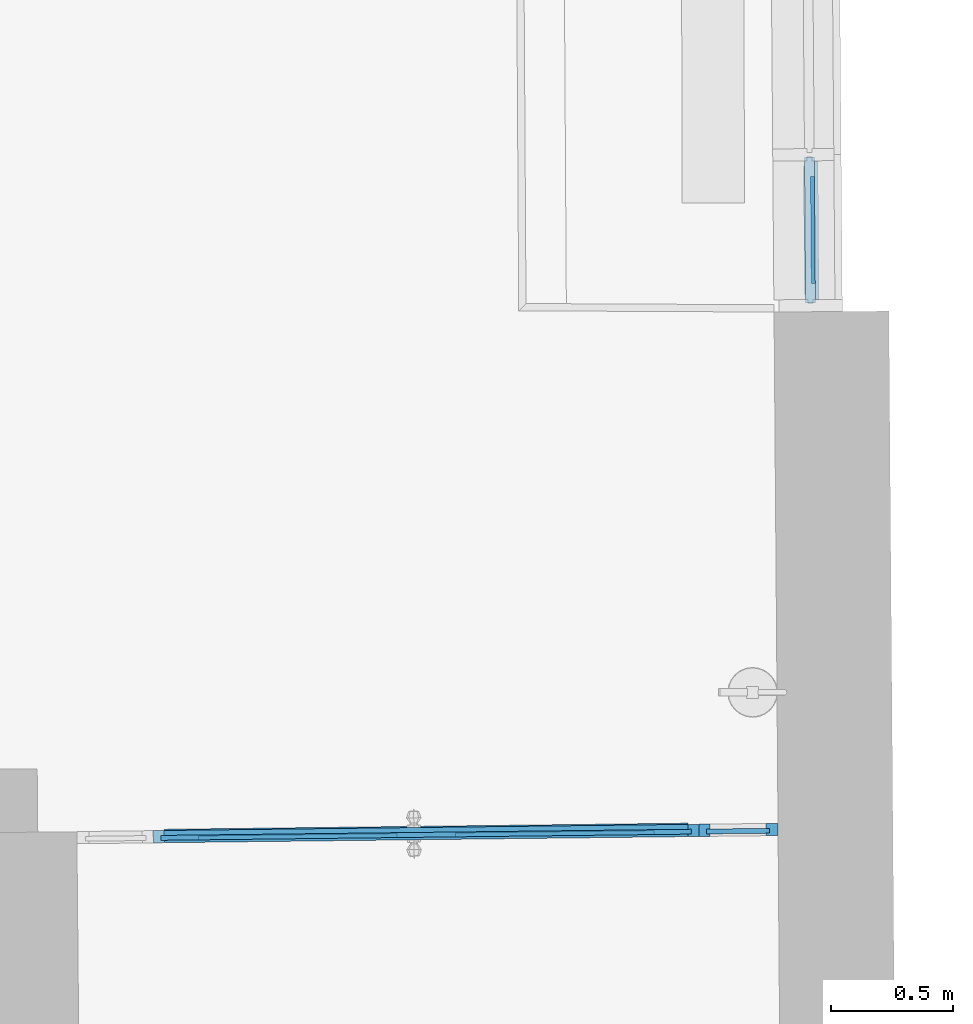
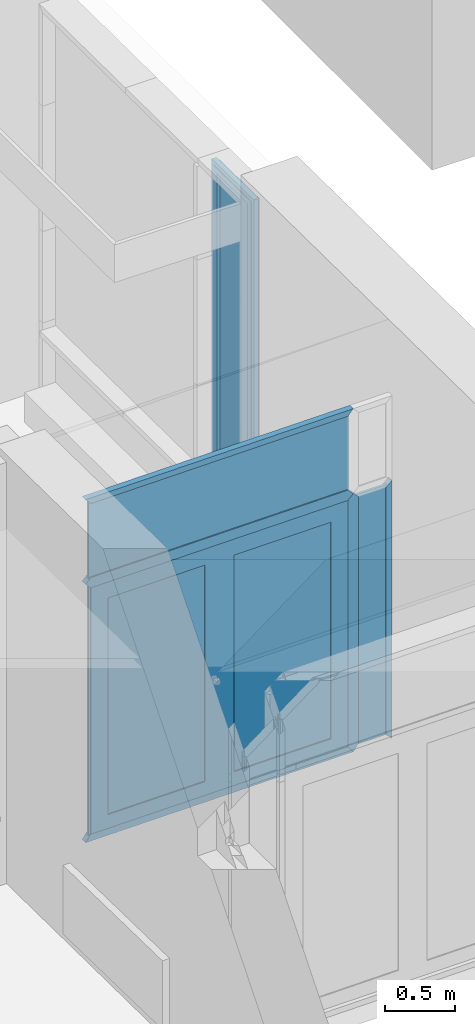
# One storey, part 127 of 196: 11 building element parts, 2 elements without a shape of their own.
"""IFC2X3 building model written with IfcOpenShell, lengths in metres."""

from ifc_helpers import new_model, entity, si_unit, converted_unit, derived_unit, money_unit, direction, frame, origin_with_axes, place, context, subcontext, project, spatial, faceted_brep, material, type_object, element, aggregate, save


model = new_model("IFC2X3")

# Units and contexts
model_context = context("Model", 3, precision=1e-05, world=origin_with_axes(), true_north=direction((0.0, 1.0)))
body_context = subcontext(model_context, "Body", "Model", "MODEL_VIEW")
ifc_project = project(units=[si_unit("LENGTHUNIT", "METRE"), si_unit("AREAUNIT", "SQUARE_METRE"), si_unit("VOLUMEUNIT", "CUBIC_METRE"), converted_unit("PLANEANGLEUNIT", "DEGREE", entity("IfcPlaneAngleMeasure", 0.0174532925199), si_unit("PLANEANGLEUNIT", "RADIAN"), dimensions=[0, 0, 0, 0, 0, 0, 0]), money_unit("EUR"), converted_unit("TIMEUNIT", "Year", entity("IfcTimeMeasure", 31556926.0), si_unit("TIMEUNIT", "SECOND"), dimensions=[0, 0, 1, 0, 0, 0, 0]), si_unit("MASSUNIT", "GRAM", prefix="KILO"), si_unit("THERMODYNAMICTEMPERATUREUNIT", "DEGREE_CELSIUS"), si_unit("LUMINOUSINTENSITYUNIT", "LUMEN"), si_unit("ENERGYUNIT", "JOULE", prefix="MEGA"), derived_unit("THERMALCONDUCTANCEUNIT", [(si_unit("POWERUNIT", "WATT"), 1), (si_unit("LENGTHUNIT", "METRE"), -1), (si_unit("THERMODYNAMICTEMPERATUREUNIT", "KELVIN"), -1)]), derived_unit("SPECIFICHEATCAPACITYUNIT", [(si_unit("ENERGYUNIT", "JOULE"), 1), (si_unit("MASSUNIT", "GRAM", prefix="KILO"), -1), (si_unit("THERMODYNAMICTEMPERATUREUNIT", "KELVIN"), -1)]), derived_unit("MASSDENSITYUNIT", [(si_unit("MASSUNIT", "GRAM", prefix="KILO"), 1), (si_unit("VOLUMEUNIT", "CUBIC_METRE"), -1)])], contexts=[model_context])

# Site, building, storey
site_placement = place(None, origin_with_axes())
site = spatial("IfcSite", under=ifc_project, at=site_placement, Name="Gelände", CompositionType="ELEMENT")
building_placement = place(site_placement, origin_with_axes())
building = spatial("IfcBuilding", under=site, at=building_placement, Name="Gebäude", CompositionType="ELEMENT")
storey_placement = place(building_placement, frame((0.0, 0.0, -3.0), z_axis=(0.0, 0.0, 1.0), x_axis=(1.0, 0.0, 0.0)))
storey = spatial("IfcBuildingStorey", under=building, at=storey_placement, Name="KELLERGESCHOSS", CompositionType="ELEMENT", Elevation=-3.0)

# Proxy, building element parts
building_element_proxy_type = type_object("IfcBuildingElementProxyType", Name="Fassadentyp", PredefinedType="NOTDEFINED")
proxy_1_placement = place(storey_placement, frame((-17.1540826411, 42.3223141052, 0.417602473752), z_axis=(0.0, 0.0, 1.0), x_axis=(1.0, 0.0, 0.0)))
proxy_1 = element("IfcBuildingElementProxy", 1, at=proxy_1_placement, inside=storey, type_object=building_element_proxy_type, Name="Fassade-002")
ifc_material_1 = material(Name="53_Metall, Aluminium")
building_element_part_1_placement = place(proxy_1_placement, origin_with_axes())
building_element_part_1 = element("IfcBuildingElementPart", 2, at=building_element_part_1_placement, material=ifc_material_1, Name="53_Metall, Aluminium", context=body_context, shape_type="Brep", body=[
    faceted_brep([(1.07131075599, 0.0475386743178, 0.0600000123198), (1.07131075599, 0.0475386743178, 2.2176744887), (1.07136926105, 0.0425390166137, 2.2176744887), (1.07136926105, 0.0425390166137, 0.0600000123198), (1.02631383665, 0.0470121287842, 0.0600000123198), (1.02631383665, 0.0470121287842, 2.1726744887), (1.02637234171, 0.0420124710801, 2.1726744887), (1.02637234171, 0.0420124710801, 0.0600000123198)], [[[0, 1, 2, 3]], [[0, 4, 5, 1]], [[1, 5, 6, 2]], [[3, 2, 6, 7]], [[4, 0, 3, 7]], [[5, 4, 7, 6]]]),
    faceted_brep([(-1.07212980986, 0.0224565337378, 2.2176744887), (-1.02713289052, 0.0229830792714, 2.1726744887), (-1.02707438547, 0.0179834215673, 2.1726744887), (-1.0720713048, 0.0174568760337, 2.2176744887), (1.07131075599, 0.0475386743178, 2.2176744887), (1.02631383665, 0.0470121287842, 2.1726744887), (1.02637234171, 0.0420124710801, 2.1726744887), (1.07136926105, 0.0425390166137, 2.2176744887)], [[[0, 1, 2, 3]], [[0, 4, 5, 1]], [[1, 5, 6, 2]], [[3, 2, 6, 7]], [[4, 0, 3, 7]], [[5, 4, 7, 6]]]),
    faceted_brep([(-1.07212980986, 0.0224565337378, 0.0600000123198), (-1.02713289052, 0.0229830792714, 0.0600000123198), (-1.02707438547, 0.0179834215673, 0.0600000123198), (-1.0720713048, 0.0174568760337, 0.0600000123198), (-1.07212980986, 0.0224565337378, 2.2176744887), (-1.02713289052, 0.0229830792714, 2.1726744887), (-1.02707438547, 0.0179834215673, 2.1726744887), (-1.0720713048, 0.0174568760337, 2.2176744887)], [[[0, 1, 2, 3]], [[0, 4, 5, 1]], [[1, 5, 6, 2]], [[3, 2, 6, 7]], [[4, 0, 3, 7]], [[5, 4, 7, 6]]]),
    faceted_brep([(1.07136926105, 0.0425390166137, 0.0600000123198), (1.07136926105, 0.0425390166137, 2.2176744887), (1.07195431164, -0.00745756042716, 2.2176744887), (1.07195431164, -0.00745756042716, 0.0600000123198), (1.05137063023, 0.0423049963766, 0.0600000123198), (1.05137063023, 0.0423049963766, 2.1976744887), (1.05195568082, -0.00769158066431, 2.1976744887), (1.05195568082, -0.00769158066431, 0.0600000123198)], [[[0, 1, 2, 3]], [[0, 4, 5, 1]], [[1, 5, 6, 2]], [[3, 2, 6, 7]], [[4, 0, 3, 7]], [[5, 4, 7, 6]]]),
    faceted_brep([(-1.0720713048, 0.0174568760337, 2.2176744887), (-1.05207267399, 0.0176908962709, 2.1976744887), (-1.05148762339, -0.03230568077, 2.1976744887), (-1.07148625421, -0.0325397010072, 2.2176744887), (1.07136926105, 0.0425390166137, 2.2176744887), (1.05137063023, 0.0423049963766, 2.1976744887), (1.05195568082, -0.00769158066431, 2.1976744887), (1.07195431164, -0.00745756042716, 2.2176744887)], [[[0, 1, 2, 3]], [[0, 4, 5, 1]], [[1, 5, 6, 2]], [[3, 2, 6, 7]], [[4, 0, 3, 7]], [[5, 4, 7, 6]]]),
    faceted_brep([(-1.0720713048, 0.0174568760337, 0.0600000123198), (-1.05207267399, 0.0176908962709, 0.0600000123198), (-1.05148762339, -0.03230568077, 0.0600000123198), (-1.07148625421, -0.0325397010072, 0.0600000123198), (-1.0720713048, 0.0174568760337, 2.2176744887), (-1.05207267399, 0.0176908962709, 2.1976744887), (-1.05148762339, -0.03230568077, 2.1976744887), (-1.07148625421, -0.0325397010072, 2.2176744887)], [[[0, 1, 2, 3]], [[0, 4, 5, 1]], [[1, 5, 6, 2]], [[3, 2, 6, 7]], [[4, 0, 3, 7]], [[5, 4, 7, 6]]]),
    faceted_brep([(-1.08683626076, -0.00271726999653, 0.0450000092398), (1.08660225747, 0.0227159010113, 0.0450000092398), (1.08683627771, 0.00271727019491, 0.0450000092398), (-1.08660224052, -0.0227159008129, 0.0450000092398), (-1.07183728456, -0.00254175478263, 0.0600000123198), (1.07160328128, 0.0225403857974, 0.0600000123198), (1.07183730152, 0.00254175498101, 0.0600000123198), (-1.07160326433, -0.022540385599, 0.0600000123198)], [[[0, 1, 2, 3]], [[0, 4, 5, 1]], [[1, 5, 6, 2]], [[3, 2, 6, 7]], [[4, 0, 3, 7]], [[5, 4, 7, 6]]]),
    faceted_brep([(1.08660225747, 0.0227159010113, 0.0450000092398), (1.08660225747, 0.0227159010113, 2.23267449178), (1.08683627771, 0.00271727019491, 2.23267449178), (1.08683627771, 0.00271727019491, 0.0450000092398), (1.07160328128, 0.0225403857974, 0.0600000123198), (1.07160328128, 0.0225403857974, 2.2176744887), (1.07183730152, 0.00254175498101, 2.2176744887), (1.07183730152, 0.00254175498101, 0.0600000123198)], [[[0, 1, 2, 3]], [[0, 4, 5, 1]], [[1, 5, 6, 2]], [[3, 2, 6, 7]], [[4, 0, 3, 7]], [[5, 4, 7, 6]]]),
    faceted_brep([(1.08660225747, 0.0227159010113, 2.23267449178), (-1.08683626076, -0.00271726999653, 2.23267449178), (-1.08660224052, -0.0227159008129, 2.23267449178), (1.08683627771, 0.00271727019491, 2.23267449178), (1.07160328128, 0.0225403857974, 2.2176744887), (-1.07183728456, -0.00254175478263, 2.2176744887), (-1.07160326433, -0.022540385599, 2.2176744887), (1.07183730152, 0.00254175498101, 2.2176744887)], [[[0, 1, 2, 3]], [[0, 4, 5, 1]], [[1, 5, 6, 2]], [[3, 2, 6, 7]], [[4, 0, 3, 7]], [[5, 4, 7, 6]]]),
    faceted_brep([(-1.08683626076, -0.00271726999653, 2.23267449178), (-1.08683626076, -0.00271726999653, 0.0450000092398), (-1.08660224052, -0.0227159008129, 0.0450000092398), (-1.08660224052, -0.0227159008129, 2.23267449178), (-1.07183728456, -0.00254175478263, 2.2176744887), (-1.07183728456, -0.00254175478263, 0.0600000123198), (-1.07160326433, -0.022540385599, 0.0600000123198), (-1.07160326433, -0.022540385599, 2.2176744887)], [[[0, 1, 2, 3]], [[0, 4, 5, 1]], [[1, 5, 6, 2]], [[3, 2, 6, 7]], [[4, 0, 3, 7]], [[5, 4, 7, 6]]]),
    faceted_brep([(-0.932080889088, 0.0190950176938, 0.18000001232), (-0.932080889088, 0.0190950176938, 2.0776744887), (-0.931495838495, -0.0309015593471, 2.0776744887), (-0.931495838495, -0.0309015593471, 0.18000001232), (-1.05207267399, 0.0176908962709, 0.0600000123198), (-1.05207267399, 0.0176908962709, 2.1976744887), (-1.05148762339, -0.03230568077, 2.1976744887), (-1.05148762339, -0.03230568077, 0.0600000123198)], [[[0, 1, 2, 3]], [[0, 4, 5, 1]], [[1, 5, 6, 2]], [[3, 2, 6, 7]], [[4, 0, 3, 7]], [[5, 4, 7, 6]]]),
    faceted_brep([(-0.000351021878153, 0.0299979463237, 0.0600000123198), (-0.000351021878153, 0.0299979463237, 2.1976744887), (0.000234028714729, -0.0199986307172, 2.1976744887), (0.000234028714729, -0.0199986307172, 0.0600000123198), (-0.120342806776, 0.0285938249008, 0.18000001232), (-0.120342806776, 0.0285938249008, 2.0776744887), (-0.119757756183, -0.0214027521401, 2.0776744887), (-0.119757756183, -0.0214027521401, 0.18000001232)], [[[0, 1, 2, 3]], [[0, 4, 5, 1]], [[1, 5, 6, 2]], [[3, 2, 6, 7]], [[4, 0, 3, 7]], [[5, 4, 7, 6]]]),
    faceted_brep([(-0.000351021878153, 0.0299979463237, 0.0600000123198), (-0.120342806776, 0.0285938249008, 0.18000001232), (-0.119757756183, -0.0214027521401, 0.18000001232), (0.000234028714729, -0.0199986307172, 0.0600000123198), (-1.05207267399, 0.0176908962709, 0.0600000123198), (-0.932080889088, 0.0190950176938, 0.18000001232), (-0.931495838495, -0.0309015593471, 0.18000001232), (-1.05148762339, -0.03230568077, 0.0600000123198)], [[[0, 1, 2, 3]], [[0, 4, 5, 1]], [[1, 5, 6, 2]], [[3, 2, 6, 7]], [[4, 0, 3, 7]], [[5, 4, 7, 6]]]),
    faceted_brep([(-1.05207267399, 0.0176908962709, 2.1976744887), (-0.932080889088, 0.0190950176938, 2.0776744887), (-0.931495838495, -0.0309015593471, 2.0776744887), (-1.05148762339, -0.03230568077, 2.1976744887), (-0.000351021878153, 0.0299979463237, 2.1976744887), (-0.120342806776, 0.0285938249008, 2.0776744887), (-0.119757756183, -0.0214027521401, 2.0776744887), (0.000234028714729, -0.0199986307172, 2.1976744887)], [[[0, 1, 2, 3]], [[0, 4, 5, 1]], [[1, 5, 6, 2]], [[3, 2, 6, 7]], [[4, 0, 3, 7]], [[5, 4, 7, 6]]]),
    faceted_brep([(0.11964076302, 0.0314020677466, 0.18000001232), (0.11964076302, 0.0314020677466, 2.0776744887), (0.120225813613, -0.0185945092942, 2.0776744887), (0.120225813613, -0.0185945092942, 0.18000001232), (-0.000351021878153, 0.0299979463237, 0.0600000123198), (-0.000351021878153, 0.0299979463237, 2.1976744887), (0.000234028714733, -0.0199986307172, 2.1976744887), (0.000234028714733, -0.0199986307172, 0.0600000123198)], [[[0, 1, 2, 3]], [[0, 4, 5, 1]], [[1, 5, 6, 2]], [[3, 2, 6, 7]], [[4, 0, 3, 7]], [[5, 4, 7, 6]]]),
    faceted_brep([(1.05137063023, 0.0423049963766, 0.0600000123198), (1.05137063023, 0.0423049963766, 2.1976744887), (1.05195568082, -0.00769158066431, 2.1976744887), (1.05195568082, -0.00769158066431, 0.0600000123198), (0.931378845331, 0.0409008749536, 0.18000001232), (0.931378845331, 0.0409008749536, 2.0776744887), (0.931963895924, -0.00909570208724, 2.0776744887), (0.931963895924, -0.00909570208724, 0.18000001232)], [[[0, 1, 2, 3]], [[0, 4, 5, 1]], [[1, 5, 6, 2]], [[3, 2, 6, 7]], [[4, 0, 3, 7]], [[5, 4, 7, 6]]]),
    faceted_brep([(1.05137063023, 0.0423049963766, 0.0600000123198), (0.931378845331, 0.0409008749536, 0.18000001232), (0.931963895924, -0.00909570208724, 0.18000001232), (1.05195568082, -0.00769158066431, 0.0600000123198), (-0.000351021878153, 0.0299979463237, 0.0600000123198), (0.11964076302, 0.0314020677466, 0.18000001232), (0.120225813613, -0.0185945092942, 0.18000001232), (0.000234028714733, -0.0199986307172, 0.0600000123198)], [[[0, 1, 2, 3]], [[0, 4, 5, 1]], [[1, 5, 6, 2]], [[3, 2, 6, 7]], [[4, 0, 3, 7]], [[5, 4, 7, 6]]]),
    faceted_brep([(-0.000351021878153, 0.0299979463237, 2.1976744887), (0.11964076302, 0.0314020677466, 2.0776744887), (0.120225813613, -0.0185945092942, 2.0776744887), (0.000234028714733, -0.0199986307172, 2.1976744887), (1.05137063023, 0.0423049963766, 2.1976744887), (0.931378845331, 0.0409008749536, 2.0776744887), (0.931963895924, -0.00909570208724, 2.0776744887), (1.05195568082, -0.00769158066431, 2.1976744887)], [[[0, 1, 2, 3]], [[0, 4, 5, 1]], [[1, 5, 6, 2]], [[3, 2, 6, 7]], [[4, 0, 3, 7]], [[5, 4, 7, 6]]]),
])
ifc_material_2 = material(Name="45_Glas, Normalglas")
building_element_part_2_placement = place(proxy_1_placement, origin_with_axes())
building_element_part_2 = element("IfcBuildingElementPart", 3, at=building_element_part_2_placement, material=ifc_material_2, Name="45_Glas, Normalglas", context=body_context, shape_type="Brep", body=[
    faceted_brep([(-0.931800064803, -0.00490333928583, 0.18000001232), (-0.120061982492, 0.00459546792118, 0.18000001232), (-0.119874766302, -0.0114034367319, 0.18000001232), (-0.931612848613, -0.0209022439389, 0.18000001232), (-0.931800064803, -0.00490333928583, 2.0776744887), (-0.120061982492, 0.00459546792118, 2.0776744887), (-0.119874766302, -0.0114034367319, 2.0776744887), (-0.931612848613, -0.0209022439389, 2.0776744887)], [[[0, 1, 2, 3]], [[0, 4, 5, 1]], [[1, 5, 6, 2]], [[3, 2, 6, 7]], [[4, 0, 3, 7]], [[5, 4, 7, 6]]]),
    faceted_brep([(0.119921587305, 0.00740371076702, 0.18000001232), (0.931659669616, 0.016902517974, 0.18000001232), (0.931846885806, 0.000903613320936, 0.18000001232), (0.120108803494, -0.00859519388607, 0.18000001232), (0.119921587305, 0.00740371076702, 2.0776744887), (0.931659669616, 0.016902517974, 2.0776744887), (0.931846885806, 0.000903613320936, 2.0776744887), (0.120108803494, -0.00859519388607, 2.0776744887)], [[[0, 1, 2, 3]], [[0, 4, 5, 1]], [[1, 5, 6, 2]], [[3, 2, 6, 7]], [[4, 0, 3, 7]], [[5, 4, 7, 6]]]),
])
building_element_part_3_placement = place(proxy_1_placement, origin_with_axes())
building_element_part_3 = element("IfcBuildingElementPart", 4, at=building_element_part_3_placement, material=ifc_material_2, Name="45_Glas, Normalglas", context=body_context, shape_type="Brep", body=[
    faceted_brep([(1.08660224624, 0.0227159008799, 2.96999994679), (-1.08683626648, -0.00271727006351, 2.96999994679), (-1.08660224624, -0.0227159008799, 2.96999994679), (1.08683626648, 0.00271727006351, 2.96999994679), (1.08660224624, 0.0227159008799, 2.29267449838), (-1.08683626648, -0.00271727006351, 2.29267449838), (-1.08660224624, -0.0227159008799, 2.29267449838), (1.08683626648, 0.00271727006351, 2.29267449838)], [[[0, 1, 2, 3]], [[0, 4, 5, 1]], [[1, 5, 6, 2]], [[3, 2, 6, 7]], [[4, 0, 3, 7]], [[5, 4, 7, 6]]]),
])
building_element_part_4_placement = place(proxy_1_placement, origin_with_axes())
building_element_part_4 = element("IfcBuildingElementPart", 5, at=building_element_part_4_placement, material=ifc_material_2, Name="45_Glas, Normalglas", context=body_context, shape_type="Brep", body=[
    faceted_brep([(1.40511021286, 0.0264430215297, 2.23267449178), (1.14659814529, 0.0234179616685, 2.23267449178), (1.14683216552, 0.00341933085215, 2.23267449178), (1.4053442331, 0.00644439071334, 2.23267449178), (1.40511021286, 0.0264430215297, 0.0450000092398), (1.14659814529, 0.0234179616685, 0.0450000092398), (1.14683216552, 0.00341933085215, 0.0450000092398), (1.4053442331, 0.00644439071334, 0.0450000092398)], [[[0, 1, 2, 3]], [[0, 4, 5, 1]], [[1, 5, 6, 2]], [[3, 2, 6, 7]], [[4, 0, 3, 7]], [[5, 4, 7, 6]]]),
])
building_element_part_5_placement = place(proxy_1_placement, origin_with_axes())
building_element_part_5 = element("IfcBuildingElementPart", 6, at=building_element_part_5_placement, material=ifc_material_1, Name="53_Metall, Aluminium", context=body_context, shape_type="Brep", body=[
    faceted_brep([(1.08510234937, 0.0226983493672, 2.96999995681), (1.07160327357, 0.0225403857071, 2.95499995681), (1.07136925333, 0.0425390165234, 2.95499995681), (1.11636617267, 0.043065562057, 3.00499995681), (1.11695122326, -0.00693101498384, 3.00499995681), (1.07195430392, -0.00745756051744, 2.95499995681), (1.0718372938, 0.00254175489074, 2.95499995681), (1.08533636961, 0.00269971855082, 2.96999995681), (-1.08533636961, -0.00269971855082, 2.96999995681), (-1.0718372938, -0.00254175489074, 2.95499995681), (-1.07207131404, 0.0174568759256, 2.95499995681), (-1.11706823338, 0.016930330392, 3.00499995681), (-1.11648318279, -0.0330662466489, 3.00499995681), (-1.07148626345, -0.0325397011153, 2.95499995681), (-1.07160327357, -0.0225403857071, 2.95499995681), (-1.08510234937, -0.0226983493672, 2.96999995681)], [[[0, 1, 2, 3, 4, 5, 6, 7]], [[0, 8, 9, 1]], [[9, 10, 2, 1]], [[2, 10, 11, 3]], [[3, 11, 12, 4]], [[4, 12, 13, 5]], [[6, 5, 13, 14]], [[14, 15, 7, 6]], [[7, 15, 8, 0]], [[8, 15, 14, 13, 12, 11, 10, 9]]]),
])
building_element_part_6_placement = place(proxy_1_placement, origin_with_axes())
building_element_part_6 = element("IfcBuildingElementPart", 7, at=building_element_part_6_placement, material=ifc_material_1, Name="53_Metall, Aluminium", context=body_context, shape_type="Brep", body=[
    faceted_brep([(1.0828525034, 0.0226720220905, 0.045), (1.08308652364, 0.00267339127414, 0.045), (1.0718372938, 0.00254175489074, 0.06), (1.07195430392, -0.00745756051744, 0.06), (1.11695122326, -0.00693101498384, 0.0), (1.11636617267, 0.043065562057, 0.0), (1.07136925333, 0.0425390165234, 0.06), (1.07160327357, 0.0225403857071, 0.06), (-1.08308652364, -0.00267339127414, 0.045), (-1.0828525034, -0.0226720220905, 0.045), (-1.07160327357, -0.0225403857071, 0.06), (-1.07148626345, -0.0325397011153, 0.06), (-1.11648318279, -0.0330662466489, 0.0), (-1.11706823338, 0.016930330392, 0.0), (-1.07207131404, 0.0174568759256, 0.06), (-1.0718372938, -0.00254175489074, 0.06)], [[[0, 1, 2, 3, 4, 5, 6, 7]], [[1, 0, 8, 9]], [[10, 2, 1, 9]], [[2, 10, 11, 3]], [[4, 3, 11, 12]], [[5, 4, 12, 13]], [[6, 5, 13, 14]], [[15, 7, 6, 14]], [[0, 7, 15, 8]], [[8, 15, 14, 13, 12, 11, 10, 9]]]),
])
building_element_part_7_placement = place(proxy_1_placement, origin_with_axes())
building_element_part_7 = element("IfcBuildingElementPart", 8, at=building_element_part_7_placement, material=ifc_material_1, Name="53_Metall, Aluminium", context=body_context, shape_type="Brep", body=[
    faceted_brep([(1.08660224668, 0.0227159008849, 2.23267449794), (1.07160327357, 0.0225403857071, 2.21767449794), (1.07136925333, 0.0425390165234, 2.21767449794), (1.11636617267, 0.043065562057, 2.26267449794), (1.11695122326, -0.00693101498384, 2.26267449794), (1.07195430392, -0.00745756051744, 2.21767449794), (1.0718372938, 0.00254175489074, 2.21767449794), (1.08683626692, 0.0027172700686, 2.23267449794), (-1.08683626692, -0.00271727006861, 2.23267449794), (-1.0718372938, -0.00254175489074, 2.21767449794), (-1.07207131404, 0.0174568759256, 2.21767449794), (-1.11706823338, 0.016930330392, 2.26267449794), (-1.07207131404, 0.0174568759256, 2.30767449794), (1.07136925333, 0.0425390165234, 2.30767449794), (1.07160327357, 0.0225403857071, 2.30767449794), (1.08660224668, 0.0227159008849, 2.29267449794), (1.08683626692, 0.0027172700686, 2.29267449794), (1.0718372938, 0.00254175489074, 2.30767449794), (1.07195430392, -0.00745756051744, 2.30767449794), (-1.11648318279, -0.0330662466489, 2.26267449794), (-1.07148626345, -0.0325397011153, 2.21767449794), (-1.07148626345, -0.0325397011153, 2.30767449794), (-1.07160327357, -0.0225403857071, 2.21767449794), (-1.08660224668, -0.022715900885, 2.23267449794), (-1.07160327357, -0.0225403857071, 2.30767449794), (-1.08660224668, -0.022715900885, 2.29267449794), (-1.08683626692, -0.00271727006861, 2.29267449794), (-1.0718372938, -0.00254175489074, 2.30767449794)], [[[0, 1, 2, 3, 4, 5, 6, 7]], [[1, 0, 8, 9]], [[1, 9, 10, 2]], [[11, 12, 13, 3, 2, 10]], [[3, 13, 14, 15, 16, 17, 18, 4]], [[19, 20, 5, 4, 18, 21]], [[22, 6, 5, 20]], [[7, 6, 22, 23]], [[0, 7, 23, 8]], [[23, 22, 20, 19, 11, 10, 9, 8]], [[21, 24, 25, 26, 27, 12, 11, 19]], [[14, 13, 12, 27]], [[14, 27, 26, 15]], [[15, 26, 25, 16]], [[17, 16, 25, 24]], [[24, 21, 18, 17]]]),
])
building_element_part_8_placement = place(proxy_1_placement, origin_with_axes())
building_element_part_8 = element("IfcBuildingElementPart", 9, at=building_element_part_8_placement, material=ifc_material_1, Name="53_Metall, Aluminium", context=body_context, shape_type="Brep", body=[
    faceted_brep([(1.14659813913, 0.0234179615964, 2.23267449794), (1.16159711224, 0.0235934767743, 2.21767449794), (1.161363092, 0.0435921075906, 2.21767449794), (1.11636617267, 0.043065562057, 2.26267449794), (1.11695122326, -0.00693101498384, 2.26267449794), (1.1619481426, -0.00640446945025, 2.21767449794), (1.16183113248, 0.00359484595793, 2.21767449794), (1.14683215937, 0.00341933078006, 2.23267449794), (1.14659813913, 0.0234179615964, 0.04), (1.16159711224, 0.0235934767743, 0.06), (1.161363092, 0.0435921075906, 0.06), (1.11636617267, 0.043065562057, 0.0), (1.07136925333, 0.0425390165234, 0.06), (1.07136925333, 0.0425390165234, 2.21767449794), (1.07160327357, 0.0225403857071, 2.21767449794), (1.08660224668, 0.0227159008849, 2.23267449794), (1.08683626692, 0.0027172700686, 2.23267449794), (1.0718372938, 0.00254175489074, 2.21767449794), (1.07195430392, -0.00745756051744, 2.21767449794), (1.11695122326, -0.00693101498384, 0.0), (1.1619481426, -0.00640446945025, 0.06), (1.07195430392, -0.00745756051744, 0.06), (1.16183113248, 0.00359484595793, 0.06), (1.14683215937, 0.00341933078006, 0.04), (1.0718372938, 0.00254175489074, 0.06), (1.08683626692, 0.0027172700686, 0.04), (1.08660224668, 0.0227159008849, 0.04), (1.07160327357, 0.0225403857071, 0.06)], [[[0, 1, 2, 3, 4, 5, 6, 7]], [[1, 0, 8, 9]], [[1, 9, 10, 2]], [[11, 12, 13, 3, 2, 10]], [[3, 13, 14, 15, 16, 17, 18, 4]], [[19, 20, 5, 4, 18, 21]], [[22, 6, 5, 20]], [[7, 6, 22, 23]], [[0, 7, 23, 8]], [[23, 22, 20, 19, 11, 10, 9, 8]], [[21, 24, 25, 26, 27, 12, 11, 19]], [[14, 13, 12, 27]], [[14, 27, 26, 15]], [[15, 26, 25, 16]], [[17, 16, 25, 24]], [[24, 21, 18, 17]]]),
])
building_element_part_9_placement = place(proxy_1_placement, origin_with_axes())
building_element_part_9 = element("IfcBuildingElementPart", 10, at=building_element_part_9_placement, material=ifc_material_1, Name="53_Metall, Aluminium", context=body_context, shape_type="Brep", body=[
    faceted_brep([(1.40511022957, 0.0264430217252, 2.23117449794), (1.40534424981, 0.00644439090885, 2.23117449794), (1.3903452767, 0.00626887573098, 2.21767449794), (1.39046228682, -0.00373043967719, 2.21767449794), (1.44045886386, -0.00314538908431, 2.26267449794), (1.43987381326, 0.0468511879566, 2.26267449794), (1.38987723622, 0.0462661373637, 2.21767449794), (1.39011125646, 0.0262675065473, 2.21767449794), (1.40511022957, 0.0264430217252, 0.035), (1.40534424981, 0.00644439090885, 0.035), (1.3903452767, 0.00626887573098, 0.05), (1.39046228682, -0.00373043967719, 0.05), (1.44045886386, -0.00314538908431, 0.0), (1.43987381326, 0.0468511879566, 0.0), (1.38987723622, 0.0462661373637, 0.05), (1.39011125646, 0.0262675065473, 0.05)], [[[0, 1, 2, 3, 4, 5, 6, 7]], [[1, 0, 8, 9]], [[10, 2, 1, 9]], [[2, 10, 11, 3]], [[3, 11, 12, 4]], [[4, 12, 13, 5]], [[5, 13, 14, 6]], [[15, 7, 6, 14]], [[0, 7, 15, 8]], [[8, 15, 14, 13, 12, 11, 10, 9]]]),
])
aggregate(proxy_1, [building_element_part_1, building_element_part_2, building_element_part_3, building_element_part_4, building_element_part_5, building_element_part_6, building_element_part_7, building_element_part_8, building_element_part_9])

proxy_2_placement = place(storey_placement, frame((-15.5832344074, 44.7839609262, 0.421025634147), z_axis=(0.0, 0.0, 1.0), x_axis=(1.0, 0.0, 0.0)))
proxy_2 = element("IfcBuildingElementProxy", 11, at=proxy_2_placement, inside=storey, type_object=building_element_proxy_type, Name="Fassade-002")
building_element_part_10_placement = place(proxy_2_placement, origin_with_axes())
building_element_part_10 = element("IfcBuildingElementPart", 12, at=building_element_part_10_placement, material=ifc_material_1, Name="53_Metall, Aluminium", context=body_context, shape_type="Brep", body=[
    faceted_brep([(0.0320989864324, -0.271058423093, 0.558501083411), (0.0277057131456, 0.29652209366, 0.558501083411), (0.0327055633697, 0.296560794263, 0.558501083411), (0.0370988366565, -0.271019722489, 0.558501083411), (0.0317506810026, -0.226059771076, 0.603501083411), (0.0280540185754, 0.251523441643, 0.603501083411), (0.0330538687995, 0.251562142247, 0.603501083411), (0.0367505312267, -0.226021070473, 0.603501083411)], [[[0, 1, 2, 3]], [[0, 4, 5, 1]], [[1, 5, 6, 2]], [[3, 2, 6, 7]], [[4, 0, 3, 7]], [[5, 4, 7, 6]]]),
    faceted_brep([(0.0277057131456, 0.29652209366, 0.558501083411), (0.0277057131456, 0.29652209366, 3.33897435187), (0.0327055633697, 0.296560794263, 3.33897435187), (0.0327055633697, 0.296560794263, 0.558501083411), (0.0280540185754, 0.251523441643, 0.603501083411), (0.0280540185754, 0.251523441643, 3.29397435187), (0.0330538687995, 0.251562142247, 3.29397435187), (0.0330538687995, 0.251562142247, 0.603501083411)], [[[0, 1, 2, 3]], [[0, 4, 5, 1]], [[1, 5, 6, 2]], [[3, 2, 6, 7]], [[4, 0, 3, 7]], [[5, 4, 7, 6]]]),
    faceted_brep([(0.0320989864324, -0.271058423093, 3.33897435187), (0.0317506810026, -0.226059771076, 3.29397435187), (0.0367505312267, -0.226021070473, 3.29397435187), (0.0370988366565, -0.271019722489, 3.33897435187), (0.0277057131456, 0.29652209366, 3.33897435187), (0.0280540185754, 0.251523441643, 3.29397435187), (0.0330538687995, 0.251562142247, 3.29397435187), (0.0327055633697, 0.296560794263, 3.33897435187)], [[[0, 1, 2, 3]], [[0, 4, 5, 1]], [[1, 5, 6, 2]], [[3, 2, 6, 7]], [[4, 0, 3, 7]], [[5, 4, 7, 6]]]),
    faceted_brep([(0.0320989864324, -0.271058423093, 0.558501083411), (0.0317506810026, -0.226059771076, 0.603501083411), (0.0367505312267, -0.226021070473, 0.603501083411), (0.0370988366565, -0.271019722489, 0.558501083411), (0.0320989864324, -0.271058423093, 3.33897435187), (0.0317506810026, -0.226059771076, 3.29397435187), (0.0367505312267, -0.226021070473, 3.29397435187), (0.0370988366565, -0.271019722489, 3.33897435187)], [[[0, 1, 2, 3]], [[0, 4, 5, 1]], [[1, 5, 6, 2]], [[3, 2, 6, 7]], [[4, 0, 3, 7]], [[5, 4, 7, 6]]]),
    faceted_brep([(-0.0178995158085, -0.271445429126, 0.558501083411), (-0.0222927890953, 0.296135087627, 0.558501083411), (0.0277057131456, 0.29652209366, 0.558501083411), (0.0320989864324, -0.271058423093, 0.558501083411), (-0.0180543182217, -0.25144602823, 0.578501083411), (-0.022137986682, 0.276135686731, 0.578501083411), (0.0278605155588, 0.276522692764, 0.578501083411), (0.0319441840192, -0.251059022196, 0.578501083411)], [[[0, 1, 2, 3]], [[0, 4, 5, 1]], [[1, 5, 6, 2]], [[3, 2, 6, 7]], [[4, 0, 3, 7]], [[5, 4, 7, 6]]]),
    faceted_brep([(-0.0222927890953, 0.296135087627, 0.558501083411), (-0.0222927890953, 0.296135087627, 3.33897435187), (0.0277057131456, 0.29652209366, 3.33897435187), (0.0277057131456, 0.29652209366, 0.558501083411), (-0.022137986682, 0.276135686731, 0.578501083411), (-0.022137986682, 0.276135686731, 3.31897435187), (0.0278605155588, 0.276522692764, 3.31897435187), (0.0278605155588, 0.276522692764, 0.578501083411)], [[[0, 1, 2, 3]], [[0, 4, 5, 1]], [[1, 5, 6, 2]], [[3, 2, 6, 7]], [[4, 0, 3, 7]], [[5, 4, 7, 6]]]),
    faceted_brep([(-0.0178995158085, -0.271445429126, 3.33897435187), (-0.0180543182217, -0.25144602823, 3.31897435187), (0.0319441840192, -0.251059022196, 3.31897435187), (0.0320989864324, -0.271058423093, 3.33897435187), (-0.0222927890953, 0.296135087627, 3.33897435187), (-0.022137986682, 0.276135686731, 3.31897435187), (0.0278605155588, 0.276522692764, 3.31897435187), (0.0277057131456, 0.29652209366, 3.33897435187)], [[[0, 1, 2, 3]], [[0, 4, 5, 1]], [[1, 5, 6, 2]], [[3, 2, 6, 7]], [[4, 0, 3, 7]], [[5, 4, 7, 6]]]),
    faceted_brep([(-0.0178995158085, -0.271445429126, 0.558501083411), (-0.0180543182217, -0.25144602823, 0.578501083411), (0.0319441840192, -0.251059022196, 0.578501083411), (0.0320989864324, -0.271058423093, 0.558501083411), (-0.0178995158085, -0.271445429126, 3.33897435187), (-0.0180543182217, -0.25144602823, 3.31897435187), (0.0319441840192, -0.251059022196, 3.31897435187), (0.0320989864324, -0.271058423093, 3.33897435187)], [[[0, 1, 2, 3]], [[0, 4, 5, 1]], [[1, 5, 6, 2]], [[3, 2, 6, 7]], [[4, 0, 3, 7]], [[5, 4, 7, 6]]]),
    faceted_brep([(-0.0177834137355, -0.286445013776, 0.543501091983), (-0.0224088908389, 0.311134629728, 0.543501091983), (0.0175899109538, 0.311444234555, 0.543501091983), (0.0222153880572, -0.286135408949, 0.543501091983), (-0.0178995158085, -0.271445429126, 0.558501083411), (-0.0222927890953, 0.296135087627, 0.558501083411), (0.0177060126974, 0.296444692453, 0.558501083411), (0.0220992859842, -0.271135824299, 0.558501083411)], [[[0, 1, 2, 3]], [[0, 4, 5, 1]], [[1, 5, 6, 2]], [[3, 2, 6, 7]], [[4, 0, 3, 7]], [[5, 4, 7, 6]]]),
    faceted_brep([(-0.0224088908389, 0.311134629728, 0.543501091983), (-0.0224088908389, 0.311134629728, 3.35397438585), (0.0175899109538, 0.311444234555, 3.35397438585), (0.0175899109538, 0.311444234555, 0.543501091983), (-0.0222927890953, 0.296135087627, 0.558501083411), (-0.0222927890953, 0.296135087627, 3.33897435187), (0.0177060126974, 0.296444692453, 3.33897435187), (0.0177060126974, 0.296444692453, 0.558501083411)], [[[0, 1, 2, 3]], [[0, 4, 5, 1]], [[1, 5, 6, 2]], [[3, 2, 6, 7]], [[4, 0, 3, 7]], [[5, 4, 7, 6]]]),
    faceted_brep([(-0.0224088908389, 0.311134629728, 3.35397438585), (-0.0177834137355, -0.286445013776, 3.35397438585), (0.0222153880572, -0.286135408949, 3.35397438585), (0.0175899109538, 0.311444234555, 3.35397438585), (-0.0222927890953, 0.296135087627, 3.33897435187), (-0.0178995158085, -0.271445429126, 3.33897435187), (0.0220992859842, -0.271135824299, 3.33897435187), (0.0177060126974, 0.296444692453, 3.33897435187)], [[[0, 1, 2, 3]], [[0, 4, 5, 1]], [[1, 5, 6, 2]], [[3, 2, 6, 7]], [[4, 0, 3, 7]], [[5, 4, 7, 6]]]),
    faceted_brep([(-0.0177834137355, -0.286445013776, 3.35397438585), (-0.0177834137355, -0.286445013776, 0.543501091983), (0.0222153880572, -0.286135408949, 0.543501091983), (0.0222153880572, -0.286135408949, 3.35397438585), (-0.0178995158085, -0.271445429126, 3.33897435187), (-0.0178995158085, -0.271445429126, 0.558501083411), (0.0220992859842, -0.271135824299, 0.558501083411), (0.0220992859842, -0.271135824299, 3.33897435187)], [[[0, 1, 2, 3]], [[0, 4, 5, 1]], [[1, 5, 6, 2]], [[3, 2, 6, 7]], [[4, 0, 3, 7]], [[5, 4, 7, 6]]]),
    faceted_brep([(0.0315958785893, -0.20606037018, 0.623501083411), (-0.0234024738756, -0.206486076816, 0.623501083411), (-0.0234024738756, -0.206486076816, 3.27397435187), (0.0315958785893, -0.20606037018, 3.27397435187), (0.0319441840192, -0.251059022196, 0.578501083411), (-0.0230541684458, -0.251484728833, 0.578501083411), (-0.0230541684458, -0.251484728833, 3.31897435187), (0.0319441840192, -0.251059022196, 3.31897435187)], [[[0, 1, 2, 3]], [[4, 5, 1, 0]], [[1, 5, 6, 2]], [[3, 2, 6, 7]], [[0, 3, 7, 4]], [[7, 6, 5, 4]]]),
    faceted_brep([(0.0278605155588, 0.276522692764, 0.578501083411), (-0.0271378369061, 0.276096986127, 0.578501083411), (-0.0271378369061, 0.276096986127, 3.31897435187), (0.0278605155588, 0.276522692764, 3.31897435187), (0.0282088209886, 0.231524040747, 0.623501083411), (-0.0267895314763, 0.23109833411, 0.623501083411), (-0.0267895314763, 0.23109833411, 3.27397435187), (0.0282088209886, 0.231524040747, 3.27397435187)], [[[0, 1, 2, 3]], [[4, 5, 1, 0]], [[1, 5, 6, 2]], [[3, 2, 6, 7]], [[0, 3, 7, 4]], [[7, 6, 5, 4]]]),
    faceted_brep([(0.0278605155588, 0.276522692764, 0.578501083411), (-0.0271378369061, 0.276096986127, 0.578501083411), (-0.0267895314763, 0.23109833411, 0.623501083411), (0.0282088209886, 0.231524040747, 0.623501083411), (0.0319441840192, -0.251059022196, 0.578501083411), (-0.0230541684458, -0.251484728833, 0.578501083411), (-0.0234024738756, -0.206486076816, 0.623501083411), (0.0315958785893, -0.20606037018, 0.623501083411)], [[[0, 1, 2, 3]], [[4, 5, 1, 0]], [[1, 5, 6, 2]], [[3, 2, 6, 7]], [[0, 3, 7, 4]], [[7, 6, 5, 4]]]),
    faceted_brep([(0.0319441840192, -0.251059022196, 3.31897435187), (-0.0230541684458, -0.251484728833, 3.31897435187), (-0.0234024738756, -0.206486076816, 3.27397435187), (0.0315958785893, -0.20606037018, 3.27397435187), (0.0278605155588, 0.276522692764, 3.31897435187), (-0.0271378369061, 0.276096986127, 3.31897435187), (-0.0267895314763, 0.23109833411, 3.27397435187), (0.0282088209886, 0.231524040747, 3.27397435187)], [[[0, 1, 2, 3]], [[4, 5, 1, 0]], [[1, 5, 6, 2]], [[3, 2, 6, 7]], [[0, 3, 7, 4]], [[7, 6, 5, 4]]]),
])
building_element_part_11_placement = place(proxy_2_placement, origin_with_axes())
building_element_part_11 = element("IfcBuildingElementPart", 13, at=building_element_part_11_placement, material=ifc_material_2, Name="45_Glas, Normalglas", context=body_context, shape_type="Brep", body=[
    faceted_brep([(0.0215961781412, -0.206137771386, 0.623501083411), (0.00559665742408, -0.206261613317, 0.623501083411), (0.0022095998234, 0.23132279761, 0.623501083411), (0.0182091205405, 0.23144663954, 0.623501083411), (0.0215961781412, -0.206137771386, 3.27397435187), (0.00559665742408, -0.206261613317, 3.27397435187), (0.0022095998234, 0.23132279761, 3.27397435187), (0.0182091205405, 0.23144663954, 3.27397435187)], [[[0, 1, 2, 3]], [[4, 5, 1, 0]], [[1, 5, 6, 2]], [[3, 2, 6, 7]], [[0, 3, 7, 4]], [[7, 6, 5, 4]]]),
])
aggregate(proxy_2, [building_element_part_10, building_element_part_11])

save(model, "model.ifc")
